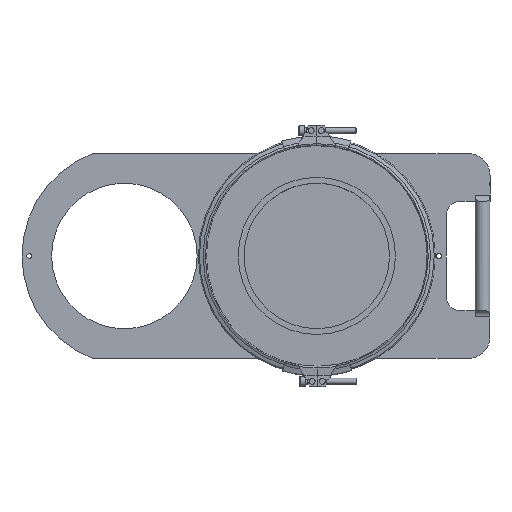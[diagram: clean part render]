
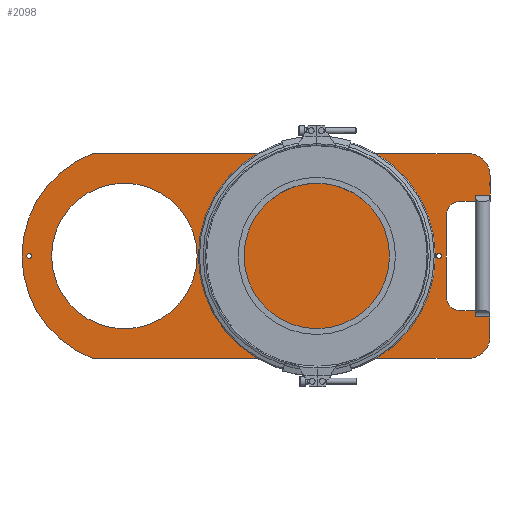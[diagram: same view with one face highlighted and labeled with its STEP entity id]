
A CAD part, top view. The second image highlights one B-rep face of the part: STEP entity #2098.
In plain terms, the highlighted planar face has unit normal (0, 0, 1) as drawn and (0, 0, -1) by its records, which use the part's own axes.
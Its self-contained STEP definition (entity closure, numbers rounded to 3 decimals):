
#1034=CARTESIAN_POINT('',(-626.5,140.,0.0));
#1035=VERTEX_POINT('',#1034);
#1036=CARTESIAN_POINT('',(-630.,140.,0.0));
#1037=DIRECTION('',(0.0,0.0,1.0));
#1038=DIRECTION('',(1.0,0.0,0.0));
#1039=AXIS2_PLACEMENT_3D('',#1036,#1037,#1038);
#1040=CIRCLE('',#1039,3.5);
#1041=EDGE_CURVE('',#1035,#1035,#1040,.T.);
#1083=CARTESIAN_POINT('',(-66.5,140.0,0.0));
#1084=VERTEX_POINT('',#1083);
#1085=CARTESIAN_POINT('',(-70.,140.0,0.0));
#1086=DIRECTION('',(0.0,0.0,1.0));
#1087=DIRECTION('',(1.0,0.0,0.0));
#1088=AXIS2_PLACEMENT_3D('',#1085,#1086,#1087);
#1089=CIRCLE('',#1088,3.5);
#1090=EDGE_CURVE('',#1084,#1084,#1089,.T.);
#1100=CARTESIAN_POINT('',(-0.113,57.,0.0));
#1101=VERTEX_POINT('',#1100);
#1121=CARTESIAN_POINT('',(-19.887,57.,0.0));
#1122=VERTEX_POINT('',#1121);
#1123=CARTESIAN_POINT('',(-0.113,57.,0.0));
#1124=DIRECTION('',(-1.0,0.0,0.0));
#1125=VECTOR('',#1124,19.774);
#1126=LINE('',#1123,#1125);
#1127=EDGE_CURVE('',#1101,#1122,#1126,.T.);
#1178=CARTESIAN_POINT('',(-19.887,223.,0.0));
#1179=VERTEX_POINT('',#1178);
#1199=CARTESIAN_POINT('',(-0.113,223.,0.0));
#1200=VERTEX_POINT('',#1199);
#1201=CARTESIAN_POINT('',(-19.887,223.,0.0));
#1202=DIRECTION('',(1.0,0.0,0.0));
#1203=VECTOR('',#1202,19.774);
#1204=LINE('',#1201,#1203);
#1205=EDGE_CURVE('',#1179,#1200,#1204,.T.);
#1584=CARTESIAN_POINT('',(-0.113,65.,0.0));
#1585=VERTEX_POINT('',#1584);
#1595=CARTESIAN_POINT('',(-0.113,57.,0.0));
#1596=DIRECTION('',(0.0,1.0,0.0));
#1597=VECTOR('',#1596,8.);
#1598=LINE('',#1595,#1597);
#1599=EDGE_CURVE('',#1101,#1585,#1598,.T.);
#1604=CARTESIAN_POINT('',(-19.887,65.,0.0));
#1605=VERTEX_POINT('',#1604);
#1606=CARTESIAN_POINT('',(-19.887,65.,0.0));
#1607=DIRECTION('',(0.0,-1.0,0.0));
#1608=VECTOR('',#1607,8.);
#1609=LINE('',#1606,#1608);
#1610=EDGE_CURVE('',#1605,#1122,#1609,.T.);
#1635=CARTESIAN_POINT('',(-0.113,215.,0.0));
#1636=VERTEX_POINT('',#1635);
#1656=CARTESIAN_POINT('',(-19.887,215.,0.0));
#1657=VERTEX_POINT('',#1656);
#1665=CARTESIAN_POINT('',(-19.887,223.,0.0));
#1666=DIRECTION('',(0.0,-1.0,0.0));
#1667=VECTOR('',#1666,8.0);
#1668=LINE('',#1665,#1667);
#1669=EDGE_CURVE('',#1179,#1657,#1668,.T.);
#1674=CARTESIAN_POINT('',(-0.113,215.,0.0));
#1675=DIRECTION('',(0.0,1.0,0.0));
#1676=VECTOR('',#1675,8.);
#1677=LINE('',#1674,#1676);
#1678=EDGE_CURVE('',#1636,#1200,#1677,.T.);
#1705=CARTESIAN_POINT('',(0.,215.,0.0));
#1706=VERTEX_POINT('',#1705);
#1707=CARTESIAN_POINT('',(0.,215.,0.0));
#1708=DIRECTION('',(-1.0,0.0,0.0));
#1709=VECTOR('',#1708,0.113);
#1710=LINE('',#1707,#1709);
#1711=EDGE_CURVE('',#1706,#1636,#1710,.T.);
#1729=CARTESIAN_POINT('',(-40.0,215.,0.0));
#1730=VERTEX_POINT('',#1729);
#1737=CARTESIAN_POINT('',(-19.887,215.,0.0));
#1738=DIRECTION('',(-1.0,0.0,0.0));
#1739=VECTOR('',#1738,20.113);
#1740=LINE('',#1737,#1739);
#1741=EDGE_CURVE('',#1657,#1730,#1740,.T.);
#1752=CARTESIAN_POINT('',(0.,65.,0.0));
#1753=VERTEX_POINT('',#1752);
#1760=CARTESIAN_POINT('',(-0.113,65.0,0.0));
#1761=DIRECTION('',(1.0,0.0,0.0));
#1762=VECTOR('',#1761,0.113);
#1763=LINE('',#1760,#1762);
#1764=EDGE_CURVE('',#1585,#1753,#1763,.T.);
#1791=CARTESIAN_POINT('',(-40.,65.,0.0));
#1792=VERTEX_POINT('',#1791);
#1793=CARTESIAN_POINT('',(-40.,65.,0.0));
#1794=DIRECTION('',(1.0,0.0,0.0));
#1795=VECTOR('',#1794,20.113);
#1796=LINE('',#1793,#1795);
#1797=EDGE_CURVE('',#1792,#1605,#1796,.T.);
#1817=CARTESIAN_POINT('',(-400.5,140.,0.0));
#1818=VERTEX_POINT('',#1817);
#1819=CARTESIAN_POINT('',(-500.0,140.0,0.0));
#1820=DIRECTION('',(0.0,0.0,1.0));
#1821=DIRECTION('',(-1.0,0.0,0.0));
#1822=AXIS2_PLACEMENT_3D('',#1819,#1820,#1821);
#1823=CIRCLE('',#1822,99.5);
#1824=EDGE_CURVE('',#1818,#1818,#1823,.T.);
#1835=CARTESIAN_POINT('',(0.,250.0,0.0));
#1836=VERTEX_POINT('',#1835);
#1843=CARTESIAN_POINT('',(-30.,280.,0.0));
#1844=VERTEX_POINT('',#1843);
#1845=CARTESIAN_POINT('',(-30.,250.0,0.0));
#1846=DIRECTION('',(0.0,0.0,-1.0));
#1847=DIRECTION('',(-1.0,0.0,0.0));
#1848=AXIS2_PLACEMENT_3D('',#1845,#1846,#1847);
#1849=CIRCLE('',#1848,30.0);
#1850=EDGE_CURVE('',#1844,#1836,#1849,.T.);
#1869=CARTESIAN_POINT('',(0.,250.0,0.0));
#1870=DIRECTION('',(0.0,-1.0,0.0));
#1871=VECTOR('',#1870,35.);
#1872=LINE('',#1869,#1871);
#1873=EDGE_CURVE('',#1836,#1706,#1872,.T.);
#1885=CARTESIAN_POINT('',(-60.,195.0,0.0));
#1886=VERTEX_POINT('',#1885);
#1893=CARTESIAN_POINT('',(-40.,195.0,0.0));
#1894=DIRECTION('',(0.0,0.0,1.0));
#1895=DIRECTION('',(0.0,1.0,0.0));
#1896=AXIS2_PLACEMENT_3D('',#1893,#1894,#1895);
#1897=CIRCLE('',#1896,20.0);
#1898=EDGE_CURVE('',#1730,#1886,#1897,.T.);
#1910=CARTESIAN_POINT('',(-60.,85.,0.0));
#1911=VERTEX_POINT('',#1910);
#1918=CARTESIAN_POINT('',(-60.,195.0,0.0));
#1919=DIRECTION('',(0.0,-1.0,0.0));
#1920=VECTOR('',#1919,110.);
#1921=LINE('',#1918,#1920);
#1922=EDGE_CURVE('',#1886,#1911,#1921,.T.);
#1935=CARTESIAN_POINT('',(-40.,85.0,0.0));
#1936=DIRECTION('',(0.0,0.0,1.0));
#1937=DIRECTION('',(-1.0,0.0,0.0));
#1938=AXIS2_PLACEMENT_3D('',#1935,#1936,#1937);
#1939=CIRCLE('',#1938,20.0);
#1940=EDGE_CURVE('',#1911,#1792,#1939,.T.);
#1952=CARTESIAN_POINT('',(0.,30.,0.0));
#1953=VERTEX_POINT('',#1952);
#1960=CARTESIAN_POINT('',(0.,65.,0.0));
#1961=DIRECTION('',(0.0,-1.0,0.0));
#1962=VECTOR('',#1961,35.0);
#1963=LINE('',#1960,#1962);
#1964=EDGE_CURVE('',#1753,#1953,#1963,.T.);
#1977=CARTESIAN_POINT('',(-30.,0.0,0.0));
#1978=VERTEX_POINT('',#1977);
#1985=CARTESIAN_POINT('',(-30.,30.0,0.0));
#1986=DIRECTION('',(0.0,0.0,-1.0));
#1987=DIRECTION('',(0.0,1.0,0.0));
#1988=AXIS2_PLACEMENT_3D('',#1985,#1986,#1987);
#1989=CIRCLE('',#1988,30.0);
#1990=EDGE_CURVE('',#1953,#1978,#1989,.T.);
#2002=CARTESIAN_POINT('',(-543.852,0.,0.0));
#2003=VERTEX_POINT('',#2002);
#2010=CARTESIAN_POINT('',(-30.,0.0,0.0));
#2011=DIRECTION('',(-1.0,0.0,0.0));
#2012=VECTOR('',#2011,513.852);
#2013=LINE('',#2010,#2012);
#2014=EDGE_CURVE('',#1978,#2003,#2013,.T.);
#2026=CARTESIAN_POINT('',(-543.852,280.,0.0));
#2027=VERTEX_POINT('',#2026);
#2034=CARTESIAN_POINT('',(-490.0,140.,0.0));
#2035=DIRECTION('',(0.0,0.0,-1.));
#2036=DIRECTION('',(0.359,-0.933,0.0));
#2037=AXIS2_PLACEMENT_3D('',#2034,#2035,#2036);
#2038=CIRCLE('',#2037,150.0);
#2039=EDGE_CURVE('',#2003,#2027,#2038,.T.);
#2052=CARTESIAN_POINT('',(-543.852,280.,0.0));
#2053=DIRECTION('',(1.0,0.0,0.0));
#2054=VECTOR('',#2053,513.852);
#2055=LINE('',#2052,#2054);
#2056=EDGE_CURVE('',#2027,#1844,#2055,.T.);
#2062=CARTESIAN_POINT('',(-290.238,140.0,0.0));
#2063=DIRECTION('',(0.0,0.0,1.0));
#2064=DIRECTION('',(1.0,0.0,0.0));
#2065=AXIS2_PLACEMENT_3D('',#2062,#2063,#2064);
#2066=PLANE('',#2065);
#2067=ORIENTED_EDGE('',*,*,#1599,.T.);
#2068=ORIENTED_EDGE('',*,*,#1764,.T.);
#2069=ORIENTED_EDGE('',*,*,#1964,.T.);
#2070=ORIENTED_EDGE('',*,*,#1990,.T.);
#2071=ORIENTED_EDGE('',*,*,#2014,.T.);
#2072=ORIENTED_EDGE('',*,*,#2039,.T.);
#2073=ORIENTED_EDGE('',*,*,#2056,.T.);
#2074=ORIENTED_EDGE('',*,*,#1850,.T.);
#2075=ORIENTED_EDGE('',*,*,#1873,.T.);
#2076=ORIENTED_EDGE('',*,*,#1711,.T.);
#2077=ORIENTED_EDGE('',*,*,#1678,.T.);
#2078=ORIENTED_EDGE('',*,*,#1205,.F.);
#2079=ORIENTED_EDGE('',*,*,#1669,.T.);
#2080=ORIENTED_EDGE('',*,*,#1741,.T.);
#2081=ORIENTED_EDGE('',*,*,#1898,.T.);
#2082=ORIENTED_EDGE('',*,*,#1922,.T.);
#2083=ORIENTED_EDGE('',*,*,#1940,.T.);
#2084=ORIENTED_EDGE('',*,*,#1797,.T.);
#2085=ORIENTED_EDGE('',*,*,#1610,.T.);
#2086=ORIENTED_EDGE('',*,*,#1127,.F.);
#2087=EDGE_LOOP('',(#2067,#2068,#2069,#2070,#2071,#2072,#2073,#2074,#2075,#2076,#2077,#2078,#2079,#2080,#2081,#2082,#2083,#2084,#2085,#2086));
#2088=FACE_OUTER_BOUND('',#2087,.T.);
#2089=ORIENTED_EDGE('',*,*,#1041,.T.);
#2090=EDGE_LOOP('',(#2089));
#2091=FACE_BOUND('',#2090,.T.);
#2092=ORIENTED_EDGE('',*,*,#1090,.T.);
#2093=EDGE_LOOP('',(#2092));
#2094=FACE_BOUND('',#2093,.T.);
#2095=ORIENTED_EDGE('',*,*,#1824,.T.);
#2096=EDGE_LOOP('',(#2095));
#2097=FACE_BOUND('',#2096,.T.);
#2098=ADVANCED_FACE('',(#2088,#2091,#2094,#2097),#2066,.F.);
